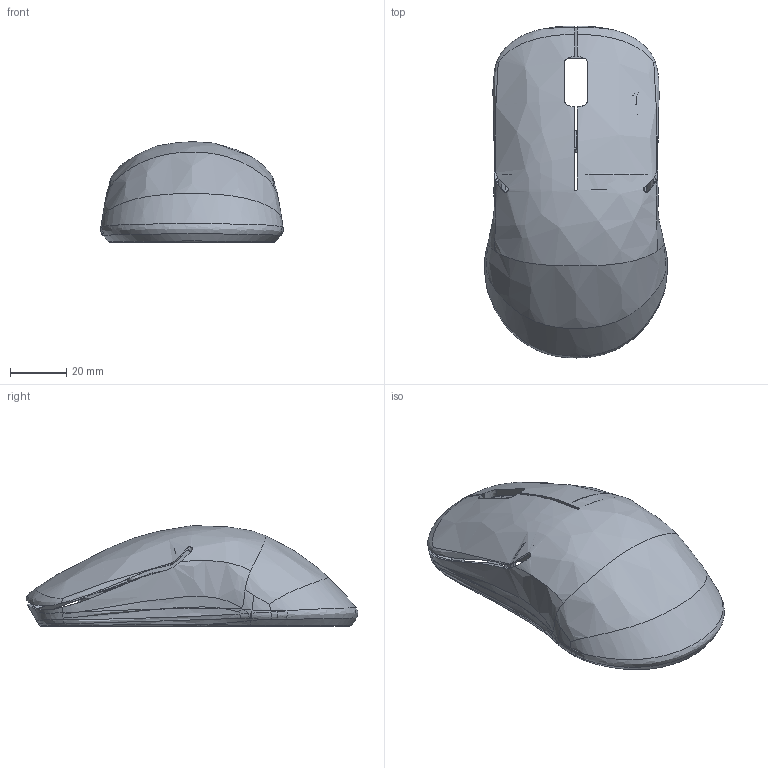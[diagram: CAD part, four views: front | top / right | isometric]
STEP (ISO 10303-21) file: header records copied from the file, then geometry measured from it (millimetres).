
FILE_DESCRIPTION(/* description */ (''),/* implementation_level */ '2;1');
FILE_NAME(/* name */ 'kinzu_op18kv2.step',/* time_stamp */ '2026-02-23T20:09:46+09:00',/* author */ (''),/* organization */ (''),/* preprocessor_version */ 'ST-DEVELOPER v20.1',/* originating_system */ 'Autodesk Translation Framework v14.24.0.0',/* authorisation */ '');
FILE_SCHEMA (('AUTOMOTIVE_DESIGN { 1 0 10303 214 3 1 1 }'));
Products named in the file (1): kinzu_op18kv2
Bounding box: 64.91 x 117.92 x 35.74 mm (x, y, z)
Volume: 20405.5 mm3; surface area: 37094.5 mm2
Topology: 1 solids, 3 shells, 891 faces, 2703 edges, 1784 vertices
Faces by surface type: plane 481, bspline 295, cylinder 103, cone 8, torus 4
Full cylindrical faces by diameter (mm): 2.6 x3, 2.8 x3
Entity records: 61225 total; most frequent: CARTESIAN_POINT 39790, ORIENTED_EDGE 5406, DIRECTION 3052, EDGE_CURVE 2703, VERTEX_POINT 1784, LINE 1262, VECTOR 1262, B_SPLINE_CURVE_WITH_KNOTS 1124
